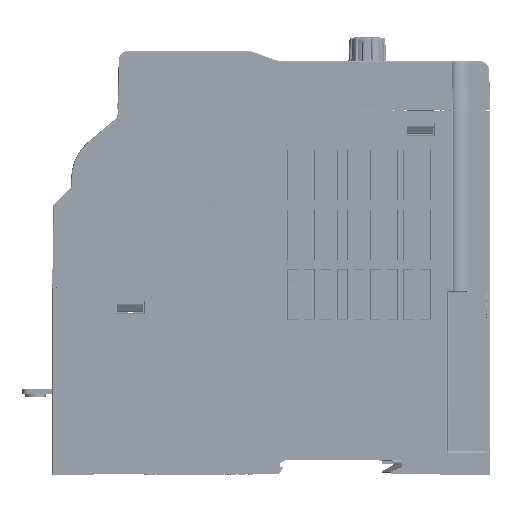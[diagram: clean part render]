
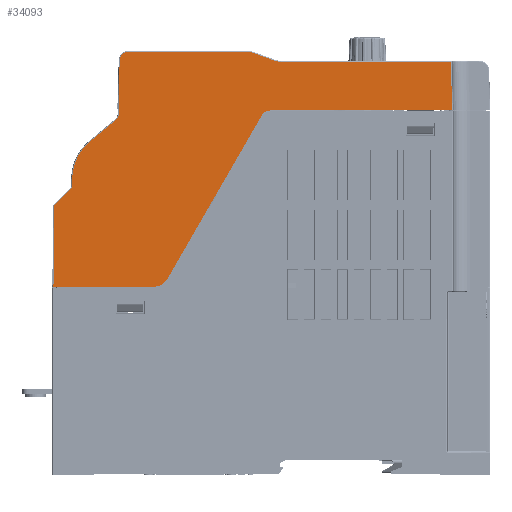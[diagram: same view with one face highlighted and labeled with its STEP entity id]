
A CAD part, front view. The second image highlights one B-rep face of the part: STEP entity #34093.
In plain terms, the highlighted planar face has unit normal (0, -1, 0).
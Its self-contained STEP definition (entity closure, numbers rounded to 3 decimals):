
#760=CARTESIAN_POINT('',(-45.363,-34.,89.249));
#761=DIRECTION('',(0.,1.,0.));
#762=DIRECTION('',(-1.,0.,0.005));
#763=AXIS2_PLACEMENT_3D('',#760,#761,#762);
#768=DIRECTION('',(0.766,0.,0.643));
#769=VECTOR('',#768,10.388);
#770=CARTESIAN_POINT('',(-54.812,-34.,100.51));
#771=LINE('',#770,#769);
#775=CARTESIAN_POINT('',(-48.333,-34.,108.949));
#776=DIRECTION('',(0.,-1.,0.));
#777=DIRECTION('',(0.643,0.,-0.766));
#778=AXIS2_PLACEMENT_3D('',#775,#776,#777);
#783=DIRECTION('',(0.017,0.,1.));
#784=VECTOR('',#783,16.14);
#785=CARTESIAN_POINT('',(-46.033,-34.,108.909));
#786=LINE('',#785,#784);
#790=CARTESIAN_POINT('',(-43.052,-34.,125.));
#791=DIRECTION('',(0.,1.,0.));
#792=DIRECTION('',(-1.,0.,0.017));
#793=AXIS2_PLACEMENT_3D('',#790,#791,#792);
#798=CARTESIAN_POINT('',(-7.124,-34.,123.));
#799=DIRECTION('',(0.,1.,0.));
#800=DIRECTION('',(0.,0.,1.));
#801=AXIS2_PLACEMENT_3D('',#798,#799,#800);
#806=DIRECTION('',(0.94,0.,-0.342));
#807=VECTOR('',#806,7.008);
#808=CARTESIAN_POINT('',(-5.517,-34.,127.417));
#809=LINE('',#808,#807);
#813=CARTESIAN_POINT('',(2.882,-34.,130.));
#814=DIRECTION('',(0.,-1.,0.));
#815=DIRECTION('',(-0.342,0.,-0.94));
#816=AXIS2_PLACEMENT_3D('',#813,#814,#815);
#821=DIRECTION('',(0.018,0.,-1.));
#822=VECTOR('',#821,14.702);
#823=CARTESIAN_POINT('',(54.255,-34.,124.7));
#824=LINE('',#823,#822);
#828=DIRECTION('',(-1.,0.,0.));
#829=VECTOR('',#828,54.784);
#830=CARTESIAN_POINT('',(54.516,-34.,110.));
#831=LINE('',#830,#829);
#835=CARTESIAN_POINT('',(-0.268,-34.,107.));
#836=DIRECTION('',(0.,-1.,0.));
#837=DIRECTION('',(0.,0.,1.));
#838=AXIS2_PLACEMENT_3D('',#835,#836,#837);
#843=DIRECTION('',(-0.5,0.,-0.866));
#844=VECTOR('',#843,56.811);
#845=CARTESIAN_POINT('',(-2.866,-34.,108.5));
#846=LINE('',#845,#844);
#850=CARTESIAN_POINT('',(-35.602,-34.,61.8));
#851=DIRECTION('',(0.,1.,0.));
#852=DIRECTION('',(0.866,0.,-0.5));
#853=AXIS2_PLACEMENT_3D('',#850,#851,#852);
#858=DIRECTION('',(0.005,0.,1.));
#859=VECTOR('',#858,24.5);
#860=CARTESIAN_POINT('',(-65.7,-34.,56.8));
#861=LINE('',#860,#859);
#865=DIRECTION('',(0.707,0.,0.707));
#866=VECTOR('',#865,7.772);
#867=CARTESIAN_POINT('',(-65.572,-34.,81.299));
#868=LINE('',#867,#866);
#1296=DIRECTION('',(1.,0.,0.));
#1297=VECTOR('',#1296,30.098);
#1298=CARTESIAN_POINT('',(-65.7,-34.,56.8));
#1299=LINE('',#1298,#1297);
#8125=DIRECTION('',(-1.,0.,0.));
#8126=VECTOR('',#8125,51.374);
#8127=CARTESIAN_POINT('',(54.255,-34.,124.7));
#8128=LINE('',#8127,#8126);
#8194=DIRECTION('',(-1.,0.,0.));
#8195=VECTOR('',#8194,35.928);
#8196=CARTESIAN_POINT('',(-7.124,-34.,127.7));
#8197=LINE('',#8196,#8195);
#17824=DIRECTION('',(-0.005,0.,-1.));
#17825=VECTOR('',#17824,2.531);
#17826=CARTESIAN_POINT('',(-60.063,-34.,89.326));
#17827=LINE('',#17826,#17825);
#29258=CARTESIAN_POINT('',(-45.751,-34.,125.047));
#29259=CARTESIAN_POINT('',(-43.052,-34.,127.7));
#29260=VERTEX_POINT('',#29258);
#29261=VERTEX_POINT('',#29259);
#29262=CARTESIAN_POINT('',(-60.063,-34.,89.326));
#29263=CARTESIAN_POINT('',(-54.812,-34.,100.51));
#29264=VERTEX_POINT('',#29262);
#29265=VERTEX_POINT('',#29263);
#29266=CARTESIAN_POINT('',(-46.854,-34.,107.187));
#29267=VERTEX_POINT('',#29266);
#29268=CARTESIAN_POINT('',(-46.033,-34.,108.909));
#29269=VERTEX_POINT('',#29268);
#29270=CARTESIAN_POINT('',(-7.124,-34.,127.7));
#29271=VERTEX_POINT('',#29270);
#29272=CARTESIAN_POINT('',(-5.517,-34.,127.417));
#29273=VERTEX_POINT('',#29272);
#29274=CARTESIAN_POINT('',(1.069,-34.,125.02));
#29275=VERTEX_POINT('',#29274);
#29276=CARTESIAN_POINT('',(2.882,-34.,124.7));
#29277=VERTEX_POINT('',#29276);
#29278=CARTESIAN_POINT('',(54.255,-34.,124.7));
#29279=VERTEX_POINT('',#29278);
#29280=CARTESIAN_POINT('',(54.516,-34.,110.));
#29281=VERTEX_POINT('',#29280);
#29282=CARTESIAN_POINT('',(-0.268,-34.,110.));
#29283=VERTEX_POINT('',#29282);
#29284=CARTESIAN_POINT('',(-2.866,-34.,108.5));
#29285=VERTEX_POINT('',#29284);
#29286=CARTESIAN_POINT('',(-31.272,-34.,59.3));
#29287=VERTEX_POINT('',#29286);
#29288=CARTESIAN_POINT('',(-35.602,-34.,56.8));
#29289=VERTEX_POINT('',#29288);
#29290=CARTESIAN_POINT('',(-65.7,-34.,56.8));
#29291=VERTEX_POINT('',#29290);
#29292=CARTESIAN_POINT('',(-65.572,-34.,81.299));
#29293=VERTEX_POINT('',#29292);
#29294=CARTESIAN_POINT('',(-60.076,-34.,86.795));
#29295=VERTEX_POINT('',#29294);
#34049=CARTESIAN_POINT('',(-66.,-34.,0.));
#34050=DIRECTION('',(0.,-1.,0.));
#34051=DIRECTION('',(1.,0.,0.));
#34052=AXIS2_PLACEMENT_3D('',#34049,#34050,#34051);
#34053=PLANE('',#34052);
#34055=ORIENTED_EDGE('',*,*,#34054,.T.);
#34057=ORIENTED_EDGE('',*,*,#34056,.T.);
#34059=ORIENTED_EDGE('',*,*,#34058,.T.);
#34061=ORIENTED_EDGE('',*,*,#34060,.T.);
#34062=ORIENTED_EDGE('',*,*,#34032,.T.);
#34064=ORIENTED_EDGE('',*,*,#34063,.F.);
#34066=ORIENTED_EDGE('',*,*,#34065,.T.);
#34068=ORIENTED_EDGE('',*,*,#34067,.T.);
#34070=ORIENTED_EDGE('',*,*,#34069,.T.);
#34072=ORIENTED_EDGE('',*,*,#34071,.F.);
#34074=ORIENTED_EDGE('',*,*,#34073,.T.);
#34076=ORIENTED_EDGE('',*,*,#34075,.T.);
#34078=ORIENTED_EDGE('',*,*,#34077,.T.);
#34080=ORIENTED_EDGE('',*,*,#34079,.T.);
#34082=ORIENTED_EDGE('',*,*,#34081,.T.);
#34084=ORIENTED_EDGE('',*,*,#34083,.F.);
#34086=ORIENTED_EDGE('',*,*,#34085,.T.);
#34088=ORIENTED_EDGE('',*,*,#34087,.T.);
#34090=ORIENTED_EDGE('',*,*,#34089,.F.);
#34091=EDGE_LOOP('',(#34055,#34057,#34059,#34061,#34062,#34064,#34066,#34068,
#34070,#34072,#34074,#34076,#34078,#34080,#34082,#34084,#34086,#34088,#34090));
#34092=FACE_OUTER_BOUND('',#34091,.F.);
#34093=ADVANCED_FACE('',(#34092),#34053,.T.);
#764=CIRCLE('',#763,14.7);
#779=CIRCLE('',#778,2.3);
#794=CIRCLE('',#793,2.7);
#802=CIRCLE('',#801,4.7);
#817=CIRCLE('',#816,5.3);
#839=CIRCLE('',#838,3.);
#854=CIRCLE('',#853,5.);
#34032=EDGE_CURVE('',#29260,#29261,#794,.T.);
#34054=EDGE_CURVE('',#29264,#29265,#764,.T.);
#34056=EDGE_CURVE('',#29265,#29267,#771,.T.);
#34058=EDGE_CURVE('',#29267,#29269,#779,.T.);
#34060=EDGE_CURVE('',#29269,#29260,#786,.T.);
#34063=EDGE_CURVE('',#29271,#29261,#8197,.T.);
#34065=EDGE_CURVE('',#29271,#29273,#802,.T.);
#34067=EDGE_CURVE('',#29273,#29275,#809,.T.);
#34069=EDGE_CURVE('',#29275,#29277,#817,.T.);
#34071=EDGE_CURVE('',#29279,#29277,#8128,.T.);
#34073=EDGE_CURVE('',#29279,#29281,#824,.T.);
#34075=EDGE_CURVE('',#29281,#29283,#831,.T.);
#34077=EDGE_CURVE('',#29283,#29285,#839,.T.);
#34079=EDGE_CURVE('',#29285,#29287,#846,.T.);
#34081=EDGE_CURVE('',#29287,#29289,#854,.T.);
#34083=EDGE_CURVE('',#29291,#29289,#1299,.T.);
#34085=EDGE_CURVE('',#29291,#29293,#861,.T.);
#34087=EDGE_CURVE('',#29293,#29295,#868,.T.);
#34089=EDGE_CURVE('',#29264,#29295,#17827,.T.);
